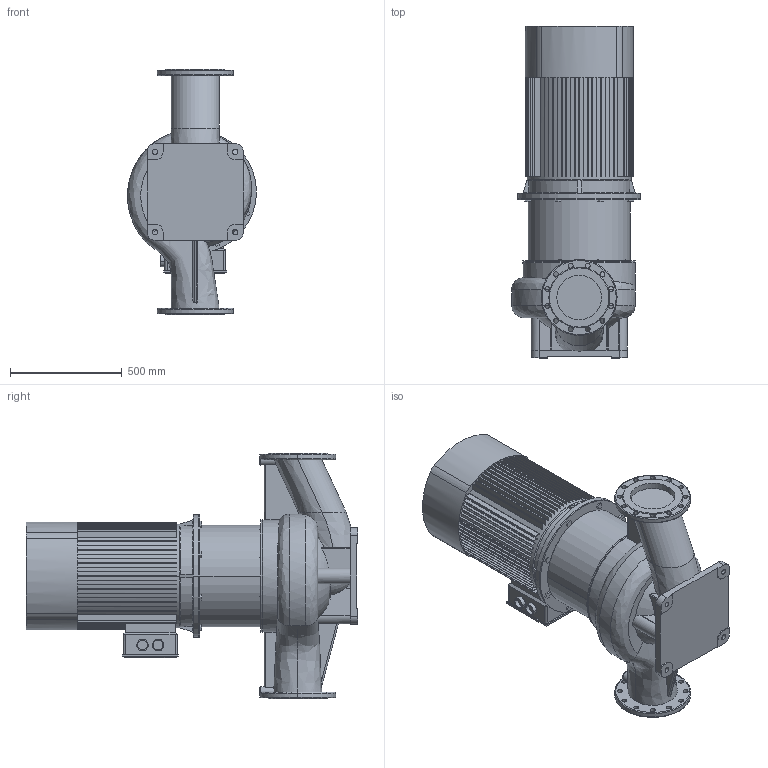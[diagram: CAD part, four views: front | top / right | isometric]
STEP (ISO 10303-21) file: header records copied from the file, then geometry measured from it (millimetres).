
FILE_DESCRIPTION (( 'STEP AP203' ), '1' );
FILE_NAME ('TD200-32_4.STEP', '2022-05-02T17:40:50', ( '' ), ( '' ), 'SwSTEP 2.0', 'SolidWorks 2019', '' );
FILE_SCHEMA (( 'CONFIG_CONTROL_DESIGN' ));
Length unit declared in the file: millimetre
Products named in the file (4): Fon_200_TD200-32_4; ED_B5_YE2-250M-4 (55); TD200-32_4; Pr_ch 200_TD200-32_4
Assembly tree (3 placements, depth 2):
  TD200-32_4
    Pr_ch 200_TD200-32_4
    Fon_200_TD200-32_4
    ED_B5_YE2-250M-4 (55)
Bounding box: 578.48 x 1488 x 1100 mm (x, y, z)
Volume: 247750296.8 mm3; surface area: 6043112.8 mm2
Topology: 5 solids, 7 shells, 816 faces, 2272 edges, 1508 vertices
Faces by surface type: plane 555, cylinder 189, torus 33, bspline 22, cone 17
Entity records: 35348 total; most frequent: CARTESIAN_POINT 13487, ORIENTED_EDGE 4544, DIRECTION 4458, EDGE_CURVE 2272, AXIS2_PLACEMENT_3D 1533, VERTEX_POINT 1508, LINE 1392, VECTOR 1392
